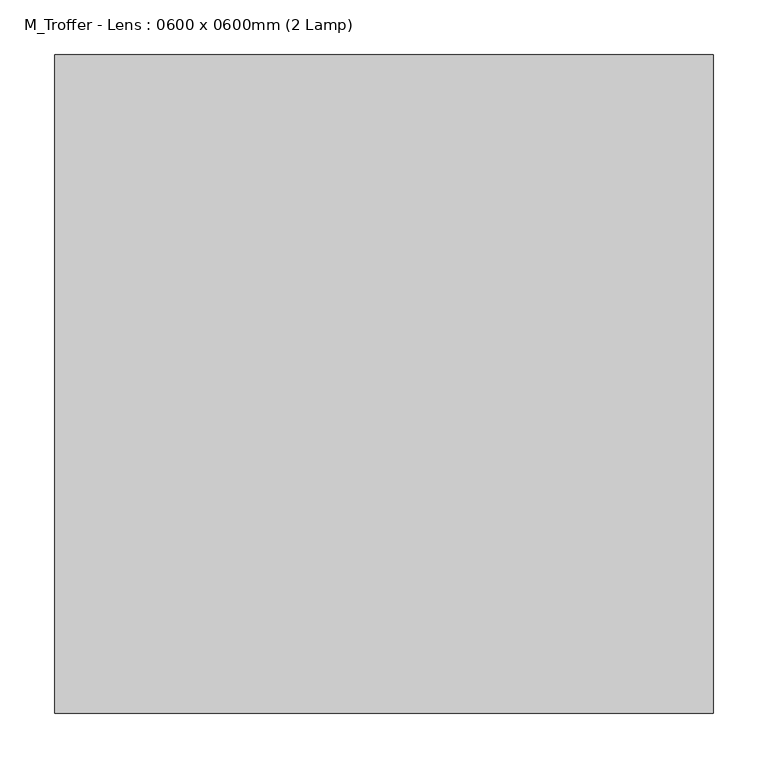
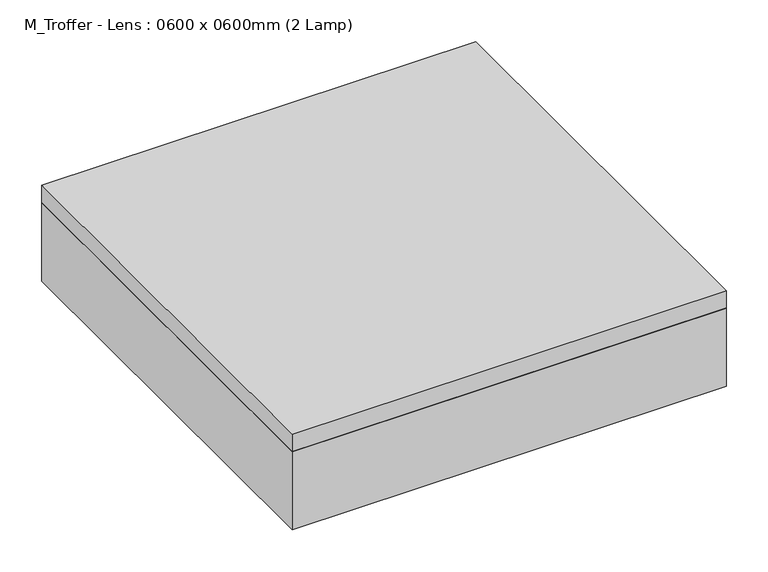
"""IFC4 building model written with IfcOpenShell, lengths in millimetres: light fixture geometry, M_Troffer - Lens : 0600 x 0600mm (2 Lamp)."""

from ifc_helpers import new_model, si_unit, frame, origin, place, context, project, spatial, polyline, outline, extrude, source, transform, mapped, element, save


def m_troffer_lens_0600_x_0600mm_2_lamp_a75f89fe(model_context):
    return source(origin(), model_context, "Body", "SweptSolid", [
        extrude(outline(polyline([(255.8964984, 215.1340679), (255.8964984, -334.0659321), (-293.3035016, -334.0659321), (-293.3035016, 215.1340679), (255.8964984, 215.1340679)])), frame((0.0, 0.0, 2438.4), z_axis=(0.0, 0.0, 1.0), x_axis=(1.0, 0.0, 0.0)), (0.0, 0.0, 1.0), 6.35),
        extrude(outline(polyline([(281.2964984, 240.5340679), (281.2964984, -359.4659321), (-318.7035016, -359.4659321), (-318.7035016, 240.5340679), (281.2964984, 240.5340679)]), holes=[polyline([(255.8964984, 215.1340679), (-293.3035016, 215.1340679), (-293.3035016, -334.0659321), (255.8964984, -334.0659321), (255.8964984, 215.1340679)])]), frame((0.0, 0.0, 2438.4), z_axis=(0.0, 0.0, 1.0), x_axis=(1.0, 0.0, 0.0)), (0.0, 0.0, 1.0), 114.3),
        extrude(outline(polyline([(281.2964984, 240.5340679), (281.2964984, -359.4659321), (-318.7035016, -359.4659321), (-318.7035016, 240.5340679), (281.2964984, 240.5340679)])), frame((0.0, 0.0, 2552.7), z_axis=(0.0, 0.0, 1.0), x_axis=(1.0, 0.0, 0.0)), (0.0, 0.0, 1.0), 25.4),
    ])


if __name__ == "__main__":
    model = new_model("IFC4")
    model_context = context("Model", 3, world=origin())
    ifc_project = project(units=[si_unit("LENGTHUNIT", "METRE", prefix="MILLI")], contexts=[model_context])
    site = spatial("IfcSite", under=ifc_project)
    building = spatial("IfcBuilding", under=site)
    placement = place(None, origin())
    m_troffer_lens_0600_x_0600mm_2_lamp_shape = m_troffer_lens_0600_x_0600mm_2_lamp_a75f89fe(model_context)
    element("IfcLightFixture", 1, ObjectType="M_Troffer - Lens : 0600 x 0600mm (2 Lamp)", at=placement, inside=building, context=model_context, shape_type="MappedRepresentation", body=[
        mapped(m_troffer_lens_0600_x_0600mm_2_lamp_shape, transform((0.0, 0.0, 0.0), x_axis=(1.0, 0.0, 0.0), y_axis=(0.0, 1.0, 0.0), z_axis=(0.0, 0.0, 1.0))),
    ])
    save(model, "model.ifc")
